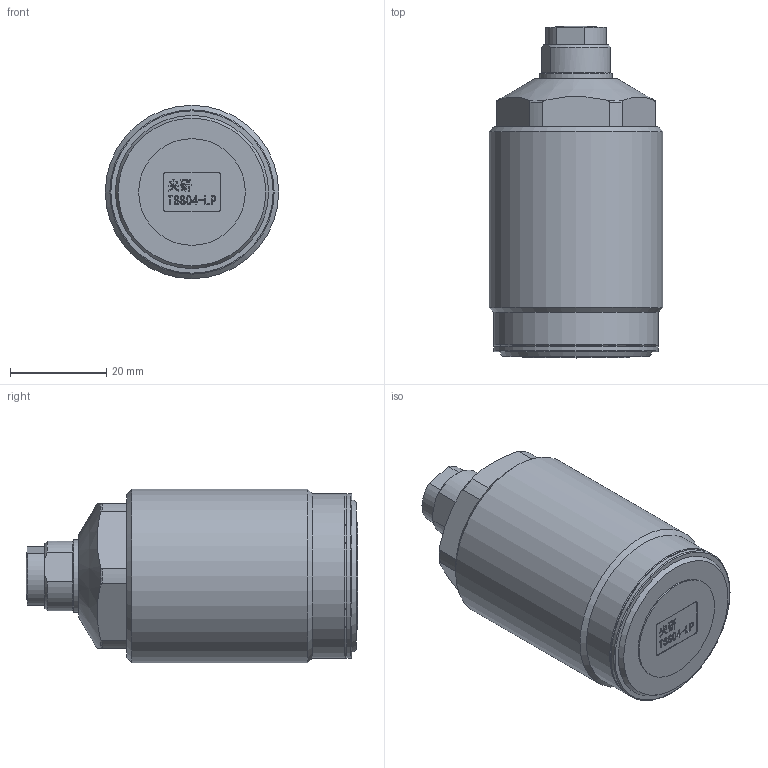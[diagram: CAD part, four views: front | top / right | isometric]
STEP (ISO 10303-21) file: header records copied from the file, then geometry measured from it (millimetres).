
FILE_DESCRIPTION(/* description */ (''),/* implementation_level */ '2;1');
FILE_NAME(/* name */ 'TSS04-LP.stp',/* time_stamp */ '2022-05-04T15:00:56+08:00',/* author */ (''),/* organization */ (''),/* preprocessor_version */ 'ST-DEVELOPER v16.7',/* originating_system */ 'SIEMENS PLM Software NX 12.0',/* authorisation */ '');
FILE_SCHEMA (('AUTOMOTIVE_DESIGN { 1 0 10303 214 3 1 1 1 }'));
Length unit declared in the file: millimetre
Products named in the file (1): TSS04-LP
Bounding box: 36 x 68.92 x 36 mm (x, y, z)
Volume: 55244 mm3; surface area: 11774.1 mm2
Topology: 3 solids, 3 shells, 255 faces, 649 edges, 426 vertices
Faces by surface type: plane 142, extrusion 64, cylinder 25, torus 13, cone 10, sphere 1
Full cylindrical faces by diameter (mm): 5 x1, 7.8 x1, 10 x2, 10.3 x1, 15 x2, 22.16 x1, 34.1 x2, 36 x1
Entity records: 9976 total; most frequent: CARTESIAN_POINT 2826, ORIENTED_EDGE 1238, DIRECTION 991, EDGE_CURVE 619, VECTOR 459, VERTEX_POINT 424, LINE 395, EDGE_LOOP 309
